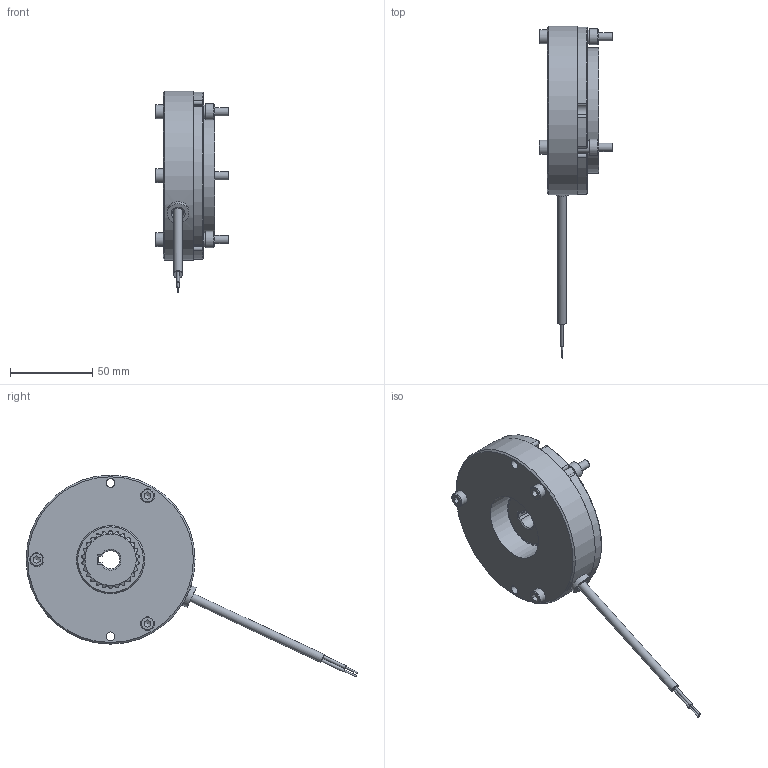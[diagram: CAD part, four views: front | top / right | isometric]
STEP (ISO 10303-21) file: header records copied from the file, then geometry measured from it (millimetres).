
FILE_DESCRIPTION(/* description */ (''),/* implementation_level */ '2;1');
FILE_NAME(/* name */ 'C:\SapWorkDir\Inventor\IP1\ConvertTempPath\5029478_IPT_000.ipt.stp',/* time_stamp */ '2021-04-21T07:04:43+02:00',/* author */ ('WOELK'),/* organization */ (''),/* preprocessor_version */ 'ST-DEVELOPER v17',/* originating_system */ 'Autodesk Inventor 2018',/* authorisation */ '');
FILE_SCHEMA (('AUTOMOTIVE_DESIGN { 1 0 10303 214 3 1 1 }'));
Length unit declared in the file: millimetre
Products named in the file (1): 5029478
Bounding box: 45 x 202.26 x 122.94 mm (x, y, z)
Volume: 211229.5 mm3; surface area: 57706.7 mm2
Topology: 2 solids, 2 shells, 501 faces, 1708 edges, 1145 vertices
Faces by surface type: cylinder 244, plane 148, bspline 53, cone 29, torus 27
Full cylindrical faces by diameter (mm): 1 x2, 1.85 x2, 5 x3, 5.15 x3, 5.3 x6, 5.5 x1, 6.6 x1, 6.7 x1, 7.188 x3, 8 x3, 8.4 x3, 8.5 x3, 10 x3, 13.2 x1, 40 x1, 41.5 x2, 76.5 x1, 103 x1
Entity records: 23651 total; most frequent: CARTESIAN_POINT 8428, ORIENTED_EDGE 3412, DIRECTION 2841, EDGE_CURVE 1706, VERTEX_POINT 1145, AXIS2_PLACEMENT_3D 1120, CIRCLE 671, LINE 601
